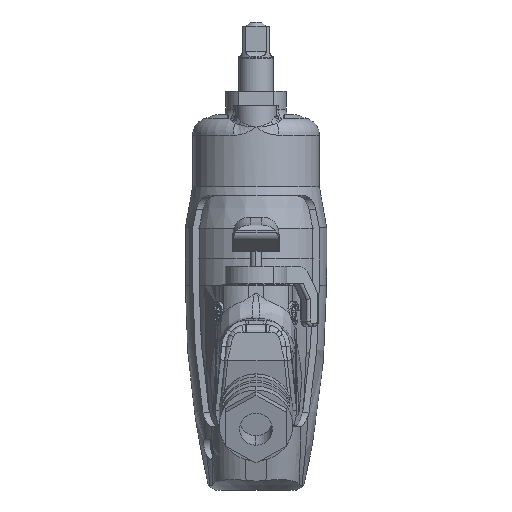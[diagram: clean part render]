
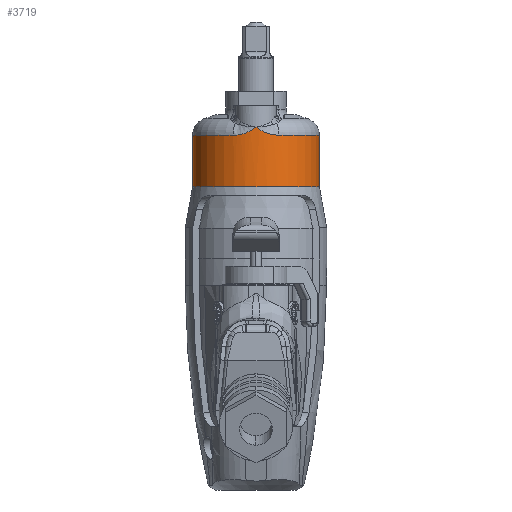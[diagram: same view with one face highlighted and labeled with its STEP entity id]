
A CAD part, front view. The second image highlights one B-rep face of the part: STEP entity #3719.
In plain terms, the highlighted cylindrical face has radius 22 mm (diameter 44 mm), a partial arc.
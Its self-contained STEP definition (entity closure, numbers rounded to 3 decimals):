
#3059 = DIRECTION ( 'NONE',  ( 0., 0., -1. ) ) ;
#3522 = VERTEX_POINT ( 'NONE', #19496 ) ;
#3719 = ADVANCED_FACE ( 'NONE', ( #54581 ), #41080, .T. ) ;
#4863 = DIRECTION ( 'NONE',  ( 1., 0., 0. ) ) ;
#5268 = ORIENTED_EDGE ( 'NONE', *, *, #16735, .T. ) ;
#8133 = VERTEX_POINT ( 'NONE', #20134 ) ;
#8158 = EDGE_CURVE ( 'NONE', #33704, #28741, #33889, .T. ) ;
#8527 = CARTESIAN_POINT ( 'NONE',  ( 7.197, -20.802, -27.259 ) ) ;
#9118 = CARTESIAN_POINT ( 'NONE',  ( -2.132, -21.899, -25.832 ) ) ;
#9982 = CARTESIAN_POINT ( 'NONE',  ( 7.875, -20.542, -27.259 ) ) ;
#10083 = ORIENTED_EDGE ( 'NONE', *, *, #8158, .F. ) ;
#10530 = CARTESIAN_POINT ( 'NONE',  ( 0., 0., -27.259 ) ) ;
#13066 = CARTESIAN_POINT ( 'NONE',  ( 6.505, -21.028, -27.199 ) ) ;
#13449 = VERTEX_POINT ( 'NONE', #49810 ) ;
#13637 = CARTESIAN_POINT ( 'NONE',  ( -3.109, -21.782, -26.291 ) ) ;
#15055 = DIRECTION ( 'NONE',  ( 1., 0., 0. ) ) ;
#16674 = CARTESIAN_POINT ( 'NONE',  ( 0., 0., -12. ) ) ;
#16735 = EDGE_CURVE ( 'NONE', #33704, #13449, #33997, .T. ) ;
#17372 = CARTESIAN_POINT ( 'NONE',  ( 0., 0., -45.147 ) ) ;
#17637 = CARTESIAN_POINT ( 'NONE',  ( 4.451, -21.556, -26.784 ) ) ;
#18226 = CARTESIAN_POINT ( 'NONE',  ( -4.446, -21.557, -26.782 ) ) ;
#19321 = ORIENTED_EDGE ( 'NONE', *, *, #57572, .T. ) ;
#19496 = CARTESIAN_POINT ( 'NONE',  ( 22., 0., -27.259 ) ) ;
#19506 = ORIENTED_EDGE ( 'NONE', *, *, #22850, .T. ) ;
#20098 = CARTESIAN_POINT ( 'NONE',  ( 22., 0., -12. ) ) ;
#20134 = CARTESIAN_POINT ( 'NONE',  ( 0., -22., -24.458 ) ) ;
#21792 = VECTOR ( 'NONE', #47245, 1000. ) ;
#21908 = DIRECTION ( 'NONE',  ( -1., 0., 0. ) ) ;
#22165 = CARTESIAN_POINT ( 'NONE',  ( 2.447, -21.873, -26.007 ) ) ;
#22522 = B_SPLINE_CURVE_WITH_KNOTS ( 'NONE', 3,
 ( #49695, #54270, #36210, #9118, #40771, #13637, #45353, #18226, #49891, #22749, #54472, #27301 ),
 .UNSPECIFIED., .F., .F.,
 ( 4, 2, 2, 2, 2, 4 ),
 ( 0., 0.002, 0.003, 0.004, 0.007, 0.009 ),
 .UNSPECIFIED. ) ;
#22749 = CARTESIAN_POINT ( 'NONE',  ( -6.51, -21.027, -27.199 ) ) ;
#22850 = EDGE_CURVE ( 'NONE', #13449, #3522, #29372, .T. ) ;
#23859 = CIRCLE ( 'NONE', #47698, 22. ) ;
#24299 = B_SPLINE_CURVE_WITH_KNOTS ( 'NONE', 3,
 ( #35618, #8527, #13066, #44756, #17637, #49305, #22165, #53876, #26730, #58431 ),
 .UNSPECIFIED., .F., .F.,
 ( 4, 2, 2, 2, 4 ),
 ( 0., 0.002, 0.004, 0.007, 0.009 ),
 .UNSPECIFIED. ) ;
#25714 = AXIS2_PLACEMENT_3D ( 'NONE', #16674, #39238, #4863 ) ;
#25919 = VERTEX_POINT ( 'NONE', #9982 ) ;
#26629 = CARTESIAN_POINT ( 'NONE',  ( -22., 0., -27.259 ) ) ;
#26730 = CARTESIAN_POINT ( 'NONE',  ( 0.578, -22., -24.895 ) ) ;
#27301 = CARTESIAN_POINT ( 'NONE',  ( -7.875, -20.542, -27.259 ) ) ;
#27930 = VECTOR ( 'NONE', #56150, 1000. ) ;
#28741 = VERTEX_POINT ( 'NONE', #26629 ) ;
#29372 = LINE ( 'NONE', #20098, #27930 ) ;
#30155 = CARTESIAN_POINT ( 'NONE',  ( 0., 0., -27.259 ) ) ;
#30919 = VERTEX_POINT ( 'NONE', #55380 ) ;
#33704 = VERTEX_POINT ( 'NONE', #55305 ) ;
#33889 = LINE ( 'NONE', #42688, #21792 ) ;
#33997 = CIRCLE ( 'NONE', #50362, 22. ) ;
#34714 = DIRECTION ( 'NONE',  ( 1., 0., 0. ) ) ;
#35140 = CIRCLE ( 'NONE', #56672, 22. ) ;
#35507 = EDGE_LOOP ( 'NONE', ( #10083, #5268, #19506, #19321, #55983, #58576, #50544 ) ) ;
#35618 = CARTESIAN_POINT ( 'NONE',  ( 7.875, -20.542, -27.259 ) ) ;
#36210 = CARTESIAN_POINT ( 'NONE',  ( -1.184, -21.977, -25.302 ) ) ;
#36924 = EDGE_CURVE ( 'NONE', #25919, #8133, #24299, .T. ) ;
#37176 = EDGE_CURVE ( 'NONE', #30919, #28741, #23859, .T. ) ;
#39238 = DIRECTION ( 'NONE',  ( 0., 0., 1. ) ) ;
#40771 = CARTESIAN_POINT ( 'NONE',  ( -2.455, -21.865, -25.995 ) ) ;
#41080 = CYLINDRICAL_SURFACE ( 'NONE', #25714, 22. ) ;
#42184 = DIRECTION ( 'NONE',  ( 0., 0., -1. ) ) ;
#42688 = CARTESIAN_POINT ( 'NONE',  ( -22., 0., -12. ) ) ;
#44756 = CARTESIAN_POINT ( 'NONE',  ( 5.135, -21.404, -26.961 ) ) ;
#45353 = CARTESIAN_POINT ( 'NONE',  ( -3.44, -21.732, -26.425 ) ) ;
#47245 = DIRECTION ( 'NONE',  ( 0., 0., 1. ) ) ;
#47698 = AXIS2_PLACEMENT_3D ( 'NONE', #10530, #42184, #15055 ) ;
#49042 = DIRECTION ( 'NONE',  ( 0., 0., 1. ) ) ;
#49305 = CARTESIAN_POINT ( 'NONE',  ( 3.102, -21.791, -26.305 ) ) ;
#49695 = CARTESIAN_POINT ( 'NONE',  ( 0., -22., -24.458 ) ) ;
#49810 = CARTESIAN_POINT ( 'NONE',  ( 22., 0., -45.147 ) ) ;
#49891 = CARTESIAN_POINT ( 'NONE',  ( -5.138, -21.403, -26.962 ) ) ;
#50362 = AXIS2_PLACEMENT_3D ( 'NONE', #17372, #49042, #21908 ) ;
#50544 = ORIENTED_EDGE ( 'NONE', *, *, #37176, .T. ) ;
#52548 = EDGE_CURVE ( 'NONE', #8133, #30919, #22522, .T. ) ;
#53876 = CARTESIAN_POINT ( 'NONE',  ( 1.183, -21.977, -25.302 ) ) ;
#54270 = CARTESIAN_POINT ( 'NONE',  ( -0.579, -22., -24.896 ) ) ;
#54472 = CARTESIAN_POINT ( 'NONE',  ( -7.196, -20.802, -27.259 ) ) ;
#54581 = FACE_OUTER_BOUND ( 'NONE', #35507, .T. ) ;
#55305 = CARTESIAN_POINT ( 'NONE',  ( -22., 0., -45.147 ) ) ;
#55380 = CARTESIAN_POINT ( 'NONE',  ( -7.875, -20.542, -27.259 ) ) ;
#55983 = ORIENTED_EDGE ( 'NONE', *, *, #36924, .T. ) ;
#56150 = DIRECTION ( 'NONE',  ( 0., 0., 1. ) ) ;
#56672 = AXIS2_PLACEMENT_3D ( 'NONE', #30155, #3059, #34714 ) ;
#57572 = EDGE_CURVE ( 'NONE', #3522, #25919, #35140, .T. ) ;
#58431 = CARTESIAN_POINT ( 'NONE',  ( 0., -22., -24.458 ) ) ;
#58576 = ORIENTED_EDGE ( 'NONE', *, *, #52548, .T. ) ;
